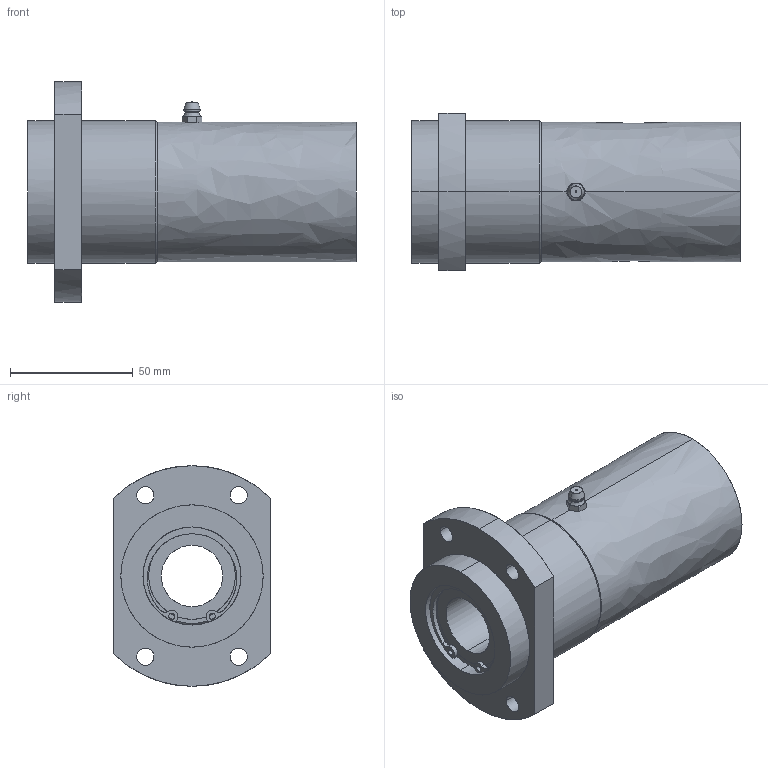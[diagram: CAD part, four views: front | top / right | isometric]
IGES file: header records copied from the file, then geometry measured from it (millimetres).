
Global section: file name: No Iges File Name specified; native system: AutoDesk Inventor R10; preprocessor: AutoDesk Inventor Iges Exporter R10; author: No Author specified; organization: No Organization specified; date: 20101214.135228; units: millimetre
Bounding box: 134 x 64 x 90 mm (x, y, z)
Surface area: 52911.3 mm2 (no closed solid volume)
Topology: 0 solids, 0 shells, 158 faces, 1110 edges, 1108 vertices
Faces by surface type: bspline 158
